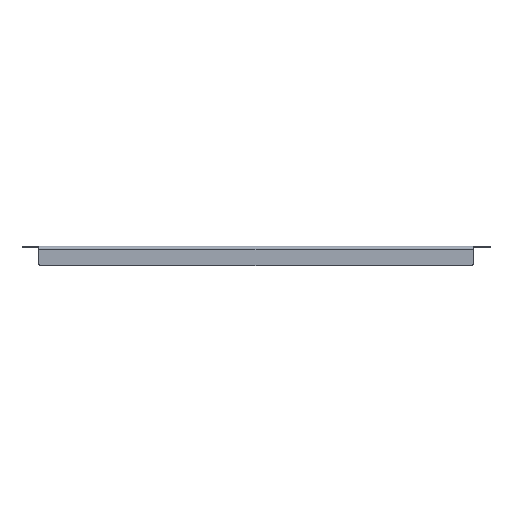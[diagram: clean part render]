
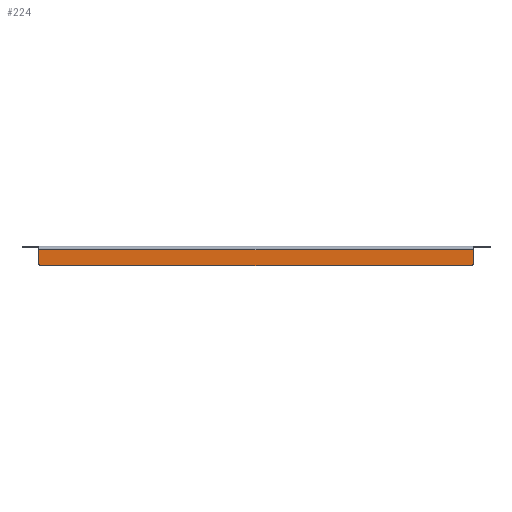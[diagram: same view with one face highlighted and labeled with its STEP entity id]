
A CAD part, left-side view. The second image highlights one B-rep face of the part: STEP entity #224.
In plain terms, the highlighted planar face has unit normal (-1, 0, 0).
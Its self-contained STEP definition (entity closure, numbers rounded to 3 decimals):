
#224=ADVANCED_FACE('',(#1568),#1570,.T.);
#1568=FACE_BOUND('',#1569,.T.);
#1569=EDGE_LOOP('',(#2647,#2648,#2649,#2650,#2651,#2652));
#1570=PLANE('',#1571);
#1571=AXIS2_PLACEMENT_3D('',#1572,#1573,#1574);
#1572=CARTESIAN_POINT('',(-37.5,0.,36.273));
#1573=DIRECTION('',(-1.,0.,0.));
#1574=DIRECTION('',(0.,1.,0.));
#2647=ORIENTED_EDGE('',*,*,#3204,.F.);
#2648=ORIENTED_EDGE('',*,*,#3205,.T.);
#2649=ORIENTED_EDGE('',*,*,#3206,.F.);
#2650=ORIENTED_EDGE('',*,*,#3207,.T.);
#2651=ORIENTED_EDGE('',*,*,#3182,.T.);
#2652=ORIENTED_EDGE('',*,*,#3208,.T.);
#3182=EDGE_CURVE('',#4032,#4033,#4034,.T.);
#3204=EDGE_CURVE('',#4068,#4069,#4070,.F.);
#3205=EDGE_CURVE('',#4068,#4071,#4072,.T.);
#3206=EDGE_CURVE('',#4073,#4071,#4074,.F.);
#3207=EDGE_CURVE('',#4073,#4032,#4075,.T.);
#3208=EDGE_CURVE('',#4033,#4069,#4076,.T.);
#4032=VERTEX_POINT('',#6044);
#4033=VERTEX_POINT('',#6045);
#4034=LINE('',#6046,#6047);
#4068=VERTEX_POINT('',#6132);
#4069=VERTEX_POINT('',#6133);
#4070=CIRCLE('',#6134,2.);
#4071=VERTEX_POINT('',#6138);
#4072=LINE('',#6139,#6140);
#4073=VERTEX_POINT('',#6142);
#4074=CIRCLE('',#6143,2.);
#4075=LINE('',#6147,#6148);
#4076=LINE('',#6150,#6151);
#6044=CARTESIAN_POINT('',(-37.5,-206.5,-2.));
#6045=CARTESIAN_POINT('',(-37.5,206.5,-2.));
#6046=CARTESIAN_POINT('',(-37.5,-206.5,-2.));
#6047=VECTOR('',#6048,1.);
#6048=DIRECTION('',(0.,1.,0.));
#6132=CARTESIAN_POINT('',(-37.5,204.5,-17.5));
#6133=CARTESIAN_POINT('',(-37.5,206.5,-15.5));
#6134=AXIS2_PLACEMENT_3D('',#6135,#6136,#6137);
#6135=CARTESIAN_POINT('',(-37.5,204.5,-15.5));
#6136=DIRECTION('',(-1.,0.,0.));
#6137=DIRECTION('',(0.,1.,0.));
#6138=CARTESIAN_POINT('',(-37.5,-204.5,-17.5));
#6139=CARTESIAN_POINT('',(-37.5,204.5,-17.5));
#6140=VECTOR('',#6141,1.);
#6141=DIRECTION('',(0.,-1.,0.));
#6142=CARTESIAN_POINT('',(-37.5,-206.5,-15.5));
#6143=AXIS2_PLACEMENT_3D('',#6144,#6145,#6146);
#6144=CARTESIAN_POINT('',(-37.5,-204.5,-15.5));
#6145=DIRECTION('',(-1.,0.,0.));
#6146=DIRECTION('',(0.,0.,-1.));
#6147=CARTESIAN_POINT('',(-37.5,-206.5,-15.5));
#6148=VECTOR('',#6149,1.);
#6149=DIRECTION('',(0.,0.,1.));
#6150=CARTESIAN_POINT('',(-37.5,206.5,-2.));
#6151=VECTOR('',#6152,1.);
#6152=DIRECTION('',(0.,0.,-1.));
